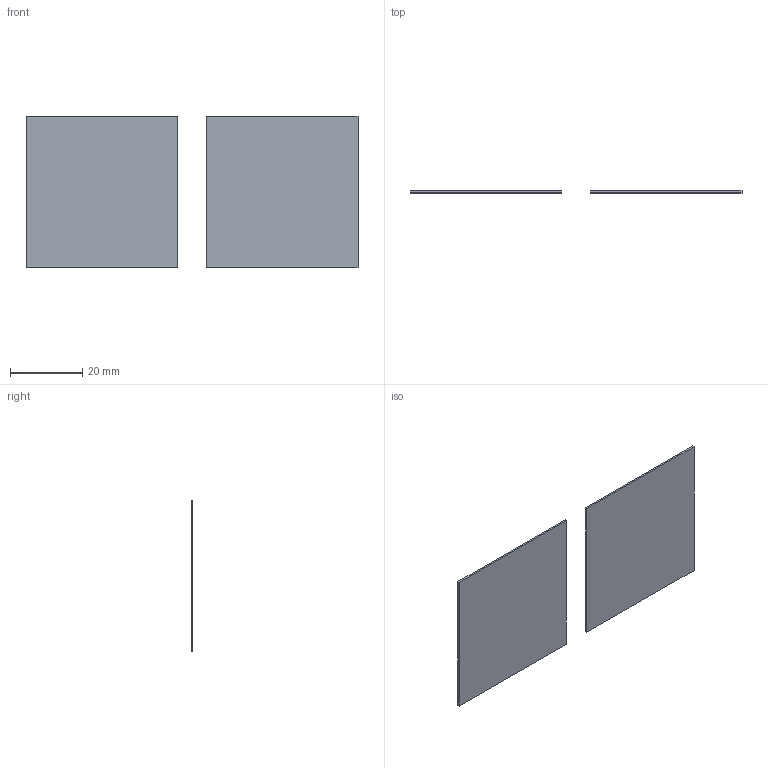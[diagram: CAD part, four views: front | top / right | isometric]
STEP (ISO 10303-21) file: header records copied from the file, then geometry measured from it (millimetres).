
FILE_DESCRIPTION (( 'STEP AP214' ), '1' );
FILE_NAME ('ela02cf.STEP', '2023-04-20T17:29:54', ( '' ), ( '' ), 'SwSTEP 2.0', 'SolidWorks 2020', '' );
FILE_SCHEMA (( 'AUTOMOTIVE_DESIGN' ));
Length unit declared in the file: millimetre
Products named in the file (2): ela02cf; 89217394
Assembly tree (2 placements, depth 2):
  ela02cf
    89217394  x2
Bounding box: 92 x 0.5 x 42 mm (x, y, z)
Volume: 1764 mm3; surface area: 7224 mm2
Topology: 2 solids, 2 shells, 12 faces, 24 edges, 16 vertices
Faces by surface type: plane 12
Entity records: 230 total; most frequent: DIRECTION 34, CARTESIAN_POINT 31, ORIENTED_EDGE 24, EDGE_CURVE 12, VECTOR 12, LINE 12, AXIS2_PLACEMENT_3D 11, VERTEX_POINT 8
